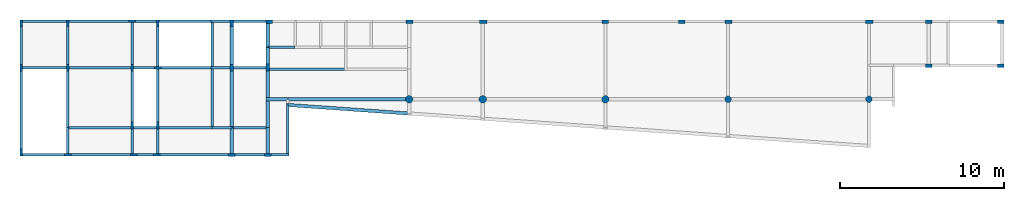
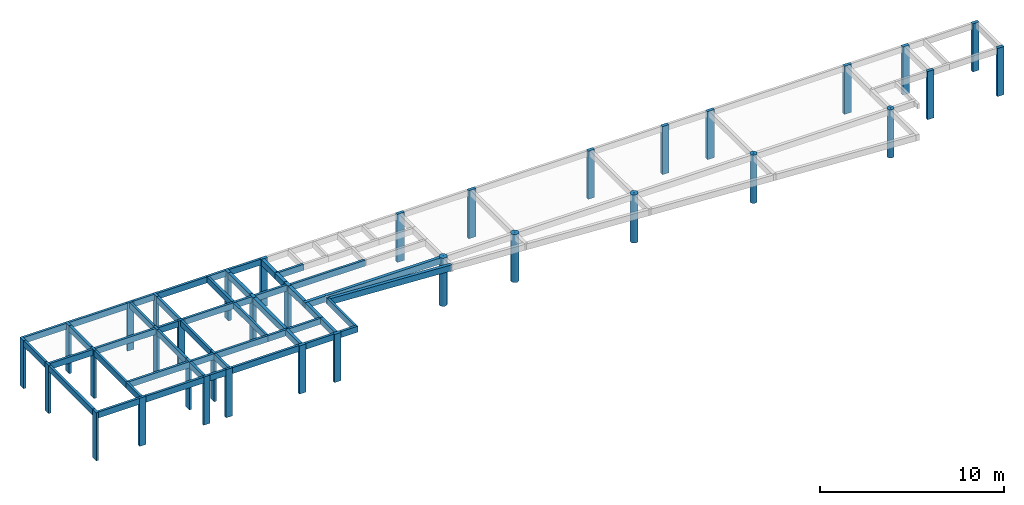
# One storey, part 1 of 3: 50 beams, 35 columns.
"""IFC2X3 building model written with IfcOpenShell, lengths in centimetres."""

from ifc_helpers import new_model, si_unit, derived_unit, frame, origin, origin_with_axes, origin_2d_with_axis, place, context, project, spatial, rectangle, hollow_circle, extrude, clip, halfspace, material, element, save


model = new_model("IFC2X3")

# Units and contexts
model_context = context("Model", 3, precision=1e-05, world=origin_with_axes(), identifier="Body")
ifc_project = project(units=[si_unit("LENGTHUNIT", "METRE", prefix="CENTI"), si_unit("VOLUMEUNIT", "CUBIC_METRE"), si_unit("AREAUNIT", "SQUARE_METRE"), si_unit("POWERUNIT", "WATT"), si_unit("LUMINOUSFLUXUNIT", "LUMEN"), si_unit("ELECTRICCURRENTUNIT", "AMPERE"), si_unit("PRESSUREUNIT", "PASCAL", prefix="KILO"), si_unit("MASSUNIT", "GRAM", prefix="KILO"), si_unit("PLANEANGLEUNIT", "RADIAN"), derived_unit("VOLUMETRICFLOWRATEUNIT", [(si_unit("LENGTHUNIT", "METRE"), 3), (si_unit("TIMEUNIT", "SECOND"), -1)])], contexts=[model_context])

# Site, building, storey
site_placement = place(None, origin_with_axes())
site = spatial("IfcSite", under=ifc_project, at=site_placement)
building_placement = place(site_placement, origin())
building = spatial("IfcBuilding", under=site, at=building_placement)
placement_1 = place(building_placement, origin_with_axes())
placement_2 = place(placement_1, frame((0.0, 0.0, 80.0), z_axis=(0.0, 0.0, 1.0), x_axis=(1.0, 0.0, 0.0)))
storey_placement = place(placement_2, frame((0.0, 0.0, 320.0), z_axis=(0.0, 0.0, 1.0), x_axis=(1.0, 0.0, 0.0)))
storey = spatial("IfcBuildingStorey", under=building, at=storey_placement, Name="03. Pavimento Superior", CompositionType="ELEMENT", Elevation=400.0)

# Columns
ifc_material = material(Name="Concreto")
column_1_placement = place(storey_placement, frame((-1732.96, -294.11, 0.0), z_axis=(0.0, 0.0, 1.0), x_axis=(1.0, 0.0, 0.0)))
element("IfcColumn", 1, at=column_1_placement, inside=storey, material=ifc_material, Name="P1", context=model_context, shape_type="SolidModel", body=[
    extrude(rectangle(XDim=15.0, YDim=40.0, at=origin_2d_with_axis()), origin_with_axes(), (0.0, 0.0, -1.0), 320.0),
])
for number, where, z_axis, x_axis, name in (
    (2, (1838.54, -284.11, 0.0), (0.0, 0.0, 1.0), (1.0, 0.0, 0.0), "P10"),
    (3, (2305.54, -284.11, 0.0), (0.0, 0.0, 1.0), (1.0, 0.0, 0.0), "P11"),
):
    element("IfcColumn", number, at=place(storey_placement, frame(where, z_axis=z_axis, x_axis=x_axis)), inside=storey, material=ifc_material, Name=name, context=model_context, shape_type="SolidModel", body=[
        extrude(rectangle(XDim=20.0, YDim=40.0, at=origin_2d_with_axis()), frame((0.0, 0.0, 0.0), z_axis=(0.0, 0.0, 1.0), x_axis=(0.0, -1.0, 0.0)), (0.0, 0.0, -1.0), 320.0),
    ])
for number, where, z_axis, x_axis, name in (
    (4, (2591.04, -284.11, 0.0), (0.0, 0.0, 1.0), (1.0, 0.0, 0.0), "P12"),
    (5, (3452.04, -284.11, 0.0), (0.0, 0.0, 1.0), (1.0, 0.0, 0.0), "P13"),
):
    element("IfcColumn", number, at=place(storey_placement, frame(where, z_axis=z_axis, x_axis=x_axis)), inside=storey, material=ifc_material, Name=name, context=model_context, shape_type="SolidModel", body=[
        extrude(rectangle(XDim=20.0, YDim=45.0, at=origin_2d_with_axis()), frame((0.0, 0.0, 0.0), z_axis=(0.0, 0.0, 1.0), x_axis=(0.0, -1.0, 0.0)), (0.0, 0.0, -1.0), 320.0),
    ])
for number, where, z_axis, x_axis, name in (
    (6, (3816.04, -284.11, 0.0), (0.0, 0.0, 1.0), (1.0, 0.0, 0.0), "P14"),
    (7, (4255.54, -284.11, 0.0), (0.0, 0.0, 1.0), (1.0, 0.0, 0.0), "P15"),
):
    element("IfcColumn", number, at=place(storey_placement, frame(where, z_axis=z_axis, x_axis=x_axis)), inside=storey, material=ifc_material, Name=name, context=model_context, shape_type="SolidModel", body=[
        extrude(rectangle(XDim=20.0, YDim=40.0, at=origin_2d_with_axis()), frame((0.0, 0.0, 0.0), z_axis=(0.0, 0.0, 1.0), x_axis=(0.0, -1.0, 0.0)), (0.0, 0.0, -1.0), 320.0),
    ])
for number, where, z_axis, x_axis, name in (
    (8, (-1732.96, -566.61, 0.0), (0.0, 0.0, 1.0), (1.0, 0.0, 0.0), "P16"),
    (9, (-1447.96, -566.61, 0.0), (0.0, 0.0, 1.0), (1.0, 0.0, 0.0), "P17"),
):
    element("IfcColumn", number, at=place(storey_placement, frame(where, z_axis=z_axis, x_axis=x_axis)), inside=storey, material=ifc_material, Name=name, context=model_context, shape_type="SolidModel", body=[
        extrude(rectangle(XDim=15.0, YDim=40.0, at=origin_2d_with_axis()), origin_with_axes(), (0.0, 0.0, -1.0), 320.0),
    ])
column_2_placement = place(storey_placement, frame((-1052.96, -566.61, 0.0), z_axis=(0.0, 0.0, 1.0), x_axis=(1.0, 0.0, 0.0)))
element("IfcColumn", 10, at=column_2_placement, inside=storey, material=ifc_material, Name="P18", context=model_context, shape_type="SolidModel", body=[
    extrude(rectangle(XDim=15.0, YDim=40.0, at=origin_2d_with_axis()), frame((0.0, 0.0, 0.0), z_axis=(0.0, 0.0, 1.0), x_axis=(-1.0, 0.0, 0.0)), (0.0, 0.0, -1.0), 320.0),
])
column_3_placement = place(storey_placement, frame((-897.96, -566.61, 0.0), z_axis=(0.0, 0.0, 1.0), x_axis=(1.0, 0.0, 0.0)))
element("IfcColumn", 11, at=column_3_placement, inside=storey, material=ifc_material, Name="P19", context=model_context, shape_type="SolidModel", body=[
    extrude(rectangle(XDim=15.0, YDim=40.0, at=origin_2d_with_axis()), frame((0.0, 0.0, 0.0), z_axis=(0.0, 0.0, 1.0), x_axis=(0.0, -1.0, 0.0)), (0.0, 0.0, -1.0), 320.0),
])
column_4_placement = place(storey_placement, frame((-1447.96, -294.11, 0.0), z_axis=(0.0, 0.0, 1.0), x_axis=(1.0, 0.0, 0.0)))
element("IfcColumn", 12, at=column_4_placement, inside=storey, material=ifc_material, Name="P2", context=model_context, shape_type="SolidModel", body=[
    extrude(rectangle(XDim=15.0, YDim=40.0, at=origin_2d_with_axis()), origin_with_axes(), (0.0, 0.0, -1.0), 320.0),
])
column_5_placement = place(storey_placement, frame((-445.46, -566.61, 0.0), z_axis=(0.0, 0.0, 1.0), x_axis=(1.0, 0.0, 0.0)))
element("IfcColumn", 13, at=column_5_placement, inside=storey, material=ifc_material, Name="P20", context=model_context, shape_type="SolidModel", body=[
    extrude(rectangle(XDim=20.0, YDim=40.0, at=origin_2d_with_axis()), origin_with_axes(), (0.0, 0.0, -1.0), 320.0),
])
column_6_placement = place(storey_placement, frame((-225.46, -564.11, 0.0), z_axis=(0.0, 0.0, 1.0), x_axis=(1.0, 0.0, 0.0)))
element("IfcColumn", 14, at=column_6_placement, inside=storey, material=ifc_material, Name="P21", context=model_context, shape_type="SolidModel", body=[
    extrude(rectangle(XDim=20.0, YDim=45.0, at=origin_2d_with_axis()), origin_with_axes(), (0.0, 0.0, -1.0), 320.0),
])
for number, where, z_axis, x_axis, name in (
    (15, (3816.04, -554.11, 0.0), (0.0, 0.0, 1.0), (1.0, 0.0, 0.0), "P22"),
    (16, (4255.54, -554.11, 0.0), (0.0, 0.0, 1.0), (1.0, 0.0, 0.0), "P23"),
):
    element("IfcColumn", number, at=place(storey_placement, frame(where, z_axis=z_axis, x_axis=x_axis)), inside=storey, material=ifc_material, Name=name, context=model_context, shape_type="SolidModel", body=[
        extrude(rectangle(XDim=20.0, YDim=40.0, at=origin_2d_with_axis()), frame((0.0, 0.0, 0.0), z_axis=(0.0, 0.0, 1.0), x_axis=(0.0, -1.0, 0.0)), (0.0, 0.0, -1.0), 320.0),
    ])
for number, where, z_axis, x_axis, name in (
    (17, (638.67, -758.96, 0.0), (0.0, 0.0, 1.0), (1.0, 0.0, 0.0), "P28"),
    (18, (1088.67, -758.96, 0.0), (0.0, 0.0, 1.0), (1.0, 0.0, 0.0), "P29"),
):
    element("IfcColumn", number, at=place(storey_placement, frame(where, z_axis=z_axis, x_axis=x_axis)), inside=storey, material=ifc_material, Name=name, context=model_context, shape_type="SolidModel", body=[
        extrude(hollow_circle(Radius=22.5, WallThickness=20.0, at=origin_2d_with_axis()), origin_with_axes(), (0.0, 0.0, -1.0), 320.0),
    ])
column_7_placement = place(storey_placement, frame((-1052.96, -282.08, 0.0), z_axis=(0.0, 0.0, 1.0), x_axis=(1.0, 0.0, 0.0)))
element("IfcColumn", 19, at=column_7_placement, inside=storey, material=ifc_material, Name="P3", context=model_context, shape_type="SolidModel", body=[
    extrude(rectangle(XDim=15.0, YDim=40.0, at=origin_2d_with_axis()), frame((0.0, 0.0, 0.0), z_axis=(0.0, 0.0, 1.0), x_axis=(0.0, -1.0, 0.0)), (0.0, 0.0, -1.0), 320.0),
])
column_8_placement = place(storey_placement, frame((1838.67, -758.96, 0.0), z_axis=(0.0, 0.0, 1.0), x_axis=(1.0, 0.0, 0.0)))
element("IfcColumn", 20, at=column_8_placement, inside=storey, material=ifc_material, Name="P30", context=model_context, shape_type="SolidModel", body=[
    extrude(hollow_circle(Radius=22.5, WallThickness=20.0, at=origin_2d_with_axis()), origin_with_axes(), (0.0, 0.0, -1.0), 320.0),
])
for number, where, z_axis, x_axis, name in (
    (21, (2588.67, -758.96, 0.0), (0.0, 0.0, 1.0), (1.0, 0.0, 0.0), "P31"),
    (22, (3449.67, -758.96, 0.0), (0.0, 0.0, 1.0), (1.0, 0.0, 0.0), "P32"),
):
    element("IfcColumn", number, at=place(storey_placement, frame(where, z_axis=z_axis, x_axis=x_axis)), inside=storey, material=ifc_material, Name=name, context=model_context, shape_type="SolidModel", body=[
        extrude(hollow_circle(Radius=20.0, WallThickness=17.5, at=origin_2d_with_axis()), origin_with_axes(), (0.0, 0.0, -1.0), 320.0),
    ])
column_9_placement = place(storey_placement, frame((-1052.96, -919.11, 0.0), z_axis=(0.0, 0.0, 1.0), x_axis=(1.0, 0.0, 0.0)))
element("IfcColumn", 23, at=column_9_placement, inside=storey, material=ifc_material, Name="P33", context=model_context, shape_type="SolidModel", body=[
    extrude(rectangle(XDim=15.0, YDim=40.0, at=origin_2d_with_axis()), frame((0.0, 0.0, 0.0), z_axis=(0.0, 0.0, 1.0), x_axis=(-1.0, 0.0, 0.0)), (0.0, 0.0, -1.0), 320.0),
])
for number, where, z_axis, x_axis, name in (
    (24, (-897.96, -919.11, 0.0), (0.0, 0.0, 1.0), (1.0, 0.0, 0.0), "P34"),
    (25, (-1732.96, -1084.11, 0.0), (0.0, 0.0, 1.0), (1.0, 0.0, 0.0), "P35"),
):
    element("IfcColumn", number, at=place(storey_placement, frame(where, z_axis=z_axis, x_axis=x_axis)), inside=storey, material=ifc_material, Name=name, context=model_context, shape_type="SolidModel", body=[
        extrude(rectangle(XDim=15.0, YDim=40.0, at=origin_2d_with_axis()), origin_with_axes(), (0.0, 0.0, -1.0), 320.0),
    ])
for number, where, z_axis, x_axis, name in (
    (26, (-1447.96, -1096.61, 0.0), (0.0, 0.0, 1.0), (1.0, 0.0, 0.0), "P36"),
    (27, (-1044.96, -1096.6, 0.0), (0.0, 0.0, 1.0), (1.0, 0.0, 0.0), "P37"),
    (28, (-904.46, -1096.6, 0.0), (0.0, 0.0, 1.0), (1.0, 0.0, 0.0), "P38"),
):
    element("IfcColumn", number, at=place(storey_placement, frame(where, z_axis=z_axis, x_axis=x_axis)), inside=storey, material=ifc_material, Name=name, context=model_context, shape_type="SolidModel", body=[
        extrude(rectangle(XDim=15.0, YDim=40.0, at=origin_2d_with_axis()), frame((0.0, 0.0, 0.0), z_axis=(0.0, 0.0, 1.0), x_axis=(0.0, -1.0, 0.0)), (0.0, 0.0, -1.0), 320.0),
    ])
column_10_placement = place(storey_placement, frame((-445.46, -1099.1, 0.0), z_axis=(0.0, 0.0, 1.0), x_axis=(1.0, 0.0, 0.0)))
element("IfcColumn", 29, at=column_10_placement, inside=storey, material=ifc_material, Name="P39", context=model_context, shape_type="SolidModel", body=[
    extrude(rectangle(XDim=20.0, YDim=40.0, at=origin_2d_with_axis()), frame((0.0, 0.0, 0.0), z_axis=(0.0, 0.0, 1.0), x_axis=(0.0, -1.0, 0.0)), (0.0, 0.0, -1.0), 320.0),
])
column_11_placement = place(storey_placement, frame((-897.96, -294.11, 0.0), z_axis=(0.0, 0.0, 1.0), x_axis=(1.0, 0.0, 0.0)))
element("IfcColumn", 30, at=column_11_placement, inside=storey, material=ifc_material, Name="P4", context=model_context, shape_type="SolidModel", body=[
    extrude(rectangle(XDim=15.0, YDim=40.0, at=origin_2d_with_axis()), origin_with_axes(), (0.0, 0.0, -1.0), 320.0),
])
column_12_placement = place(storey_placement, frame((-225.46, -1099.1, 0.0), z_axis=(0.0, 0.0, 1.0), x_axis=(1.0, 0.0, 0.0)))
element("IfcColumn", 31, at=column_12_placement, inside=storey, material=ifc_material, Name="P40", context=model_context, shape_type="SolidModel", body=[
    extrude(rectangle(XDim=20.0, YDim=40.0, at=origin_2d_with_axis()), frame((0.0, 0.0, 0.0), z_axis=(0.0, 0.0, 1.0), x_axis=(0.0, -1.0, 0.0)), (0.0, 0.0, -1.0), 320.0),
])
column_13_placement = place(storey_placement, frame((-445.46, -294.11, 0.0), z_axis=(0.0, 0.0, 1.0), x_axis=(1.0, 0.0, 0.0)))
element("IfcColumn", 32, at=column_13_placement, inside=storey, material=ifc_material, Name="P5", context=model_context, shape_type="SolidModel", body=[
    extrude(rectangle(XDim=20.0, YDim=40.0, at=origin_2d_with_axis()), origin_with_axes(), (0.0, 0.0, -1.0), 320.0),
])
column_14_placement = place(storey_placement, frame((-215.46, -284.11, 0.0), z_axis=(0.0, 0.0, 1.0), x_axis=(1.0, 0.0, 0.0)))
element("IfcColumn", 33, at=column_14_placement, inside=storey, material=ifc_material, Name="P6", context=model_context, shape_type="SolidModel", body=[
    extrude(rectangle(XDim=20.0, YDim=40.0, at=origin_2d_with_axis()), frame((0.0, 0.0, 0.0), z_axis=(0.0, 0.0, 1.0), x_axis=(0.0, -1.0, 0.0)), (0.0, 0.0, -1.0), 320.0),
])
for number, where, z_axis, x_axis, name in (
    (34, (641.04, -284.11, 0.0), (0.0, 0.0, 1.0), (1.0, 0.0, 0.0), "P8"),
    (35, (1091.04, -284.11, 0.0), (0.0, 0.0, 1.0), (1.0, 0.0, 0.0), "P9"),
):
    element("IfcColumn", number, at=place(storey_placement, frame(where, z_axis=z_axis, x_axis=x_axis)), inside=storey, material=ifc_material, Name=name, context=model_context, shape_type="SolidModel", body=[
        extrude(rectangle(XDim=20.0, YDim=45.0, at=origin_2d_with_axis()), frame((0.0, 0.0, 0.0), z_axis=(0.0, 0.0, 1.0), x_axis=(0.0, -1.0, 0.0)), (0.0, 0.0, -1.0), 320.0),
    ])

# Beams
beam_1_placement = place(storey_placement, frame((-1246.71, -281.61, 0.0), z_axis=(0.0, 0.0, 1.0), x_axis=(1.0, 0.0, 0.0)))
element("IfcBeam", 36, at=beam_1_placement, inside=storey, material=ifc_material, Name="V1", context=model_context, shape_type="SolidModel", body=[
    extrude(rectangle(XDim=15.0, YDim=40.0, at=origin_2d_with_axis()), frame((-193.75, 0.0, -20.0), z_axis=(1.0, 0.0, 0.0), x_axis=(0.0, -1.0, 0.0)), (0.0, 0.0, 1.0), 387.5),
])
beam_2_placement = place(storey_placement, frame((-1590.46, -281.61, 0.0), z_axis=(0.0, 0.0, 1.0), x_axis=(1.0, 0.0, 0.0)))
element("IfcBeam", 37, at=beam_2_placement, inside=storey, material=ifc_material, Name="V1", context=model_context, shape_type="SolidModel", body=[
    extrude(rectangle(XDim=15.0, YDim=40.0, at=origin_2d_with_axis()), frame((-135.0, 0.0, -20.0), z_axis=(1.0, 0.0, 0.0), x_axis=(0.0, -1.0, 0.0)), (0.0, 0.0, 1.0), 270.0),
])
beam_3_placement = place(storey_placement, frame((-979.21, -281.61, 0.0), z_axis=(0.0, 0.0, 1.0), x_axis=(1.0, 0.0, 0.0)))
element("IfcBeam", 38, at=beam_3_placement, inside=storey, material=ifc_material, Name="V1", context=model_context, shape_type="SolidModel", body=[
    extrude(rectangle(XDim=15.0, YDim=40.0, at=origin_2d_with_axis()), frame((-73.75, 0.0, -20.0), z_axis=(1.0, 0.0, 0.0), x_axis=(0.0, -1.0, 0.0)), (0.0, 0.0, 1.0), 147.5),
])
beam_4_placement = place(storey_placement, frame((-727.96, -281.61, 0.0), z_axis=(0.0, 0.0, 1.0), x_axis=(1.0, 0.0, 0.0)))
element("IfcBeam", 39, at=beam_4_placement, inside=storey, material=ifc_material, Name="V1", context=model_context, shape_type="SolidModel", body=[
    extrude(rectangle(XDim=15.0, YDim=40.0, at=origin_2d_with_axis()), frame((-162.5, 0.0, -20.0), z_axis=(1.0, 0.0, 0.0), x_axis=(0.0, -1.0, 0.0)), (0.0, 0.0, 1.0), 325.0),
])
beam_5_placement = place(storey_placement, frame((-514.21, -281.61, 0.0), z_axis=(0.0, 0.0, 1.0), x_axis=(1.0, 0.0, 0.0)))
element("IfcBeam", 40, at=beam_5_placement, inside=storey, material=ifc_material, Name="V1", context=model_context, shape_type="SolidModel", body=[
    extrude(rectangle(XDim=15.0, YDim=40.0, at=origin_2d_with_axis()), frame((-58.75, 0.0, -20.0), z_axis=(1.0, 0.0, 0.0), x_axis=(0.0, -1.0, 0.0)), (0.0, 0.0, 1.0), 117.5),
])
beam_6_placement = place(storey_placement, frame((-335.46, -281.61, 0.0), z_axis=(0.0, 0.0, 1.0), x_axis=(1.0, 0.0, 0.0)))
element("IfcBeam", 41, at=beam_6_placement, inside=storey, material=ifc_material, Name="V1", context=model_context, shape_type="SolidModel", body=[
    extrude(rectangle(XDim=15.0, YDim=40.0, at=origin_2d_with_axis()), frame((-100.0, 0.0, -20.0), z_axis=(1.0, 0.0, 0.0), x_axis=(0.0, -1.0, 0.0)), (0.0, 0.0, 1.0), 200.0),
])
beam_7_placement = place(storey_placement, frame((264.69963178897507, -819.4627326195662, 0.0), z_axis=(0.0, 0.0, 1.0), x_axis=(1.0, 0.0, 0.0)))
element("IfcBeam", 42, at=beam_7_placement, inside=storey, material=ifc_material, Name="V10", context=model_context, shape_type="Clipping", body=[
    clip(extrude(rectangle(XDim=20.0, YDim=40.0, at=origin_2d_with_axis()), frame((-375.3791394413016, 26.45726738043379, -20.0), z_axis=(0.997516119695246, -0.070438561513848, 0.0), x_axis=(-0.070438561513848, -0.997516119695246, 0.0)), (0.0, 0.0, 1.0), 751.2154368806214), halfspace(frame((-374.67475382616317, 36.43242857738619, 0.0), z_axis=(0.999795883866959, 0.02020372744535, 0.0), x_axis=(0.0, 0.0, -0.09057772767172)), True)),
])
beam_8_placement = place(storey_placement, frame((-975.46, -931.61, 0.0), z_axis=(0.0, 0.0, 1.0), x_axis=(1.0, 0.0, 0.0)))
element("IfcBeam", 43, at=beam_8_placement, inside=storey, material=ifc_material, Name="V16", context=model_context, shape_type="SolidModel", body=[
    extrude(rectangle(XDim=15.0, YDim=40.0, at=origin_2d_with_axis()), frame((-70.0, 0.0, -20.0), z_axis=(1.0, 0.0, 0.0), x_axis=(0.0, -1.0, 0.0)), (0.0, 0.0, 1.0), 140.0),
])
beam_9_placement = place(storey_placement, frame((-1254.21, -931.61, 0.0), z_axis=(0.0, 0.0, 1.0), x_axis=(1.0, 0.0, 0.0)))
element("IfcBeam", 44, at=beam_9_placement, inside=storey, material=ifc_material, Name="V16", context=model_context, shape_type="SolidModel", body=[
    extrude(rectangle(XDim=15.0, YDim=40.0, at=origin_2d_with_axis()), frame((-193.75, 0.0, -20.0), z_axis=(1.0, 0.0, 0.0), x_axis=(0.0, -1.0, 0.0)), (0.0, 0.0, 1.0), 387.5),
])
beam_10_placement = place(storey_placement, frame((-505.46, -931.61, 0.0), z_axis=(0.0, 0.0, 1.0), x_axis=(1.0, 0.0, 0.0)))
element("IfcBeam", 45, at=beam_10_placement, inside=storey, material=ifc_material, Name="V17", context=model_context, shape_type="SolidModel", body=[
    extrude(rectangle(XDim=15.0, YDim=40.0, at=origin_2d_with_axis()), frame((-60.0, 0.0, -20.0), z_axis=(1.0, 0.0, 0.0), x_axis=(0.0, -1.0, 0.0)), (0.0, 0.0, 1.0), 120.0),
])
beam_11_placement = place(storey_placement, frame((-727.96, -931.61, 0.0), z_axis=(0.0, 0.0, 1.0), x_axis=(1.0, 0.0, 0.0)))
element("IfcBeam", 46, at=beam_11_placement, inside=storey, material=ifc_material, Name="V17", context=model_context, shape_type="SolidModel", body=[
    extrude(rectangle(XDim=15.0, YDim=40.0, at=origin_2d_with_axis()), frame((-162.5, 0.0, -20.0), z_axis=(1.0, 0.0, 0.0), x_axis=(0.0, -1.0, 0.0)), (0.0, 0.0, 1.0), 325.0),
])
beam_12_placement = place(storey_placement, frame((-335.46, -931.61, 0.0), z_axis=(0.0, 0.0, 1.0), x_axis=(1.0, 0.0, 0.0)))
element("IfcBeam", 47, at=beam_12_placement, inside=storey, material=ifc_material, Name="V17", context=model_context, shape_type="SolidModel", body=[
    extrude(rectangle(XDim=15.0, YDim=40.0, at=origin_2d_with_axis()), frame((-110.0, 0.0, -20.0), z_axis=(1.0, 0.0, 0.0), x_axis=(0.0, -1.0, 0.0)), (0.0, 0.0, 1.0), 220.0),
])
beam_13_placement = place(storey_placement, frame((-1596.71, -1096.6, 0.0), z_axis=(0.0, 0.0, 1.0), x_axis=(1.0, 0.0, 0.0)))
element("IfcBeam", 48, at=beam_13_placement, inside=storey, material=ifc_material, Name="V18", context=model_context, shape_type="SolidModel", body=[
    extrude(rectangle(XDim=15.0, YDim=40.0, at=origin_2d_with_axis()), frame((-128.75, 0.0, -20.0), z_axis=(1.0, 0.0, 0.0), x_axis=(0.0, -1.0, 0.0)), (0.0, 0.0, 1.0), 257.5),
])
beam_14_placement = place(storey_placement, frame((-1246.46, -1096.6, 0.0), z_axis=(0.0, 0.0, 1.0), x_axis=(1.0, 0.0, 0.0)))
element("IfcBeam", 49, at=beam_14_placement, inside=storey, material=ifc_material, Name="V18", context=model_context, shape_type="SolidModel", body=[
    extrude(rectangle(XDim=15.0, YDim=40.0, at=origin_2d_with_axis()), frame((-181.5, 0.0, -20.0), z_axis=(1.0, 0.0, 0.0), x_axis=(0.0, -1.0, 0.0)), (0.0, 0.0, 1.0), 363.0),
])
beam_15_placement = place(storey_placement, frame((-974.71, -1096.6, 0.0), z_axis=(0.0, 0.0, 1.0), x_axis=(1.0, 0.0, 0.0)))
element("IfcBeam", 50, at=beam_15_placement, inside=storey, material=ifc_material, Name="V18", context=model_context, shape_type="SolidModel", body=[
    extrude(rectangle(XDim=15.0, YDim=40.0, at=origin_2d_with_axis()), frame((-50.25, 0.0, -20.0), z_axis=(1.0, 0.0, 0.0), x_axis=(0.0, -1.0, 0.0)), (0.0, 0.0, 1.0), 100.5),
])
beam_16_placement = place(storey_placement, frame((-335.46, -1096.6, 0.0), z_axis=(0.0, 0.0, 1.0), x_axis=(1.0, 0.0, 0.0)))
element("IfcBeam", 51, at=beam_16_placement, inside=storey, material=ifc_material, Name="V18", context=model_context, shape_type="SolidModel", body=[
    extrude(rectangle(XDim=15.0, YDim=40.0, at=origin_2d_with_axis()), frame((-90.0, 0.0, -20.0), z_axis=(1.0, 0.0, 0.0), x_axis=(0.0, -1.0, 0.0)), (0.0, 0.0, 1.0), 180.0),
])
beam_17_placement = place(storey_placement, frame((-674.96, -1096.6, 0.0), z_axis=(0.0, 0.0, 1.0), x_axis=(1.0, 0.0, 0.0)))
element("IfcBeam", 52, at=beam_17_placement, inside=storey, material=ifc_material, Name="V18", context=model_context, shape_type="SolidModel", body=[
    extrude(rectangle(XDim=15.0, YDim=40.0, at=origin_2d_with_axis()), frame((-209.5, 0.0, -20.0), z_axis=(1.0, 0.0, 0.0), x_axis=(0.0, -1.0, 0.0)), (0.0, 0.0, 1.0), 419.0),
])
beam_18_placement = place(storey_placement, frame((-150.45132662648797, -1096.6, 0.0), z_axis=(0.0, 0.0, 1.0), x_axis=(1.0, 0.0, 0.0)))
element("IfcBeam", 53, at=beam_18_placement, inside=storey, material=ifc_material, Name="V18", context=model_context, shape_type="Clipping", body=[
    clip(extrude(rectangle(XDim=15.0, YDim=40.0, at=origin_2d_with_axis()), frame((-55.00867337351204, 0.0, -20.0), z_axis=(1.0, 0.0, 0.0), x_axis=(0.0, -1.0, 0.0)), (0.0, 0.0, 1.0), 110.01734674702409), halfspace(frame((55.00867337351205, 7.5, -40.0), z_axis=(-1.0, 0.00231022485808, 0.0), x_axis=(0.0, 0.0, -0.00231022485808)), True)),
])
beam_19_placement = place(storey_placement, frame((-1732.96, -825.36, 0.0), z_axis=(0.0, 0.0, 1.0), x_axis=(1.0, 0.0, 0.0)))
element("IfcBeam", 54, at=beam_19_placement, inside=storey, material=ifc_material, Name="V19", context=model_context, shape_type="SolidModel", body=[
    extrude(rectangle(XDim=15.0, YDim=40.0, at=origin_2d_with_axis()), frame((0.0, -238.75, -20.0), z_axis=(0.0, 1.0, 0.0), x_axis=(-1.0, 0.0, 0.0)), (0.0, 0.0, 1.0), 477.5),
])
for number, where, z_axis, x_axis, name in (
    (55, (-1732.96, -430.36, 0.0), (0.0, 0.0, 1.0), (1.0, 0.0, 0.0), "V19"),
    (56, (-1447.96, -430.36, 0.0), (0.0, 0.0, 1.0), (1.0, 0.0, 0.0), "V20"),
):
    element("IfcBeam", number, at=place(storey_placement, frame(where, z_axis=z_axis, x_axis=x_axis)), inside=storey, material=ifc_material, Name=name, context=model_context, shape_type="SolidModel", body=[
        extrude(rectangle(XDim=15.0, YDim=40.0, at=origin_2d_with_axis()), frame((0.0, -116.25, -20.0), z_axis=(0.0, 1.0, 0.0), x_axis=(-1.0, 0.0, 0.0)), (0.0, 0.0, 1.0), 232.5),
    ])
beam_20_placement = place(storey_placement, frame((-1447.96, -759.11, 0.0), z_axis=(0.0, 0.0, 1.0), x_axis=(1.0, 0.0, 0.0)))
element("IfcBeam", 57, at=beam_20_placement, inside=storey, material=ifc_material, Name="V20", context=model_context, shape_type="SolidModel", body=[
    extrude(rectangle(XDim=15.0, YDim=40.0, at=origin_2d_with_axis()), frame((0.0, -172.5, -20.0), z_axis=(0.0, 1.0, 0.0), x_axis=(-1.0, 0.0, 0.0)), (0.0, 0.0, 1.0), 345.0),
])
beam_21_placement = place(storey_placement, frame((-1447.96, -1010.36, 0.0), z_axis=(0.0, 0.0, 1.0), x_axis=(1.0, 0.0, 0.0)))
element("IfcBeam", 58, at=beam_21_placement, inside=storey, material=ifc_material, Name="V20", context=model_context, shape_type="SolidModel", body=[
    extrude(rectangle(XDim=15.0, YDim=40.0, at=origin_2d_with_axis()), frame((0.0, -78.75, -20.0), z_axis=(0.0, 1.0, 0.0), x_axis=(-1.0, 0.0, 0.0)), (0.0, 0.0, 1.0), 157.5),
])
beam_22_placement = place(storey_placement, frame((-1052.96, -742.86, 0.0), z_axis=(0.0, 0.0, 1.0), x_axis=(1.0, 0.0, 0.0)))
element("IfcBeam", 59, at=beam_22_placement, inside=storey, material=ifc_material, Name="V21", context=model_context, shape_type="SolidModel", body=[
    extrude(rectangle(XDim=15.0, YDim=40.0, at=origin_2d_with_axis()), frame((0.0, -156.25, -20.0), z_axis=(0.0, 1.0, 0.0), x_axis=(-1.0, 0.0, 0.0)), (0.0, 0.0, 1.0), 312.5),
])
beam_23_placement = place(storey_placement, frame((-1052.96, -418.095, 0.0), z_axis=(0.0, 0.0, 1.0), x_axis=(1.0, 0.0, 0.0)))
element("IfcBeam", 60, at=beam_23_placement, inside=storey, material=ifc_material, Name="V21", context=model_context, shape_type="SolidModel", body=[
    extrude(rectangle(XDim=15.0, YDim=40.0, at=origin_2d_with_axis()), frame((0.0, -128.515, -20.0), z_axis=(0.0, 1.0, 0.0), x_axis=(-1.0, 0.0, 0.0)), (0.0, 0.0, 1.0), 257.03),
])
for number, where, z_axis, x_axis, name in (
    (61, (-1052.96, -1014.105, 0.0), (0.0, 0.0, 1.0), (1.0, 0.0, 0.0), "V21"),
    (62, (-897.96, -1014.105, 0.0), (0.0, 0.0, 1.0), (1.0, 0.0, 0.0), "V22"),
):
    element("IfcBeam", number, at=place(storey_placement, frame(where, z_axis=z_axis, x_axis=x_axis)), inside=storey, material=ifc_material, Name=name, context=model_context, shape_type="SolidModel", body=[
        extrude(rectangle(XDim=15.0, YDim=40.0, at=origin_2d_with_axis()), frame((0.0, -74.995, -20.0), z_axis=(0.0, 1.0, 0.0), x_axis=(-1.0, 0.0, 0.0)), (0.0, 0.0, 1.0), 149.99),
    ])
beam_24_placement = place(storey_placement, frame((-897.96, -736.61, 0.0), z_axis=(0.0, 0.0, 1.0), x_axis=(1.0, 0.0, 0.0)))
element("IfcBeam", 63, at=beam_24_placement, inside=storey, material=ifc_material, Name="V22", context=model_context, shape_type="SolidModel", body=[
    extrude(rectangle(XDim=15.0, YDim=40.0, at=origin_2d_with_axis()), frame((0.0, -162.5, -20.0), z_axis=(0.0, 1.0, 0.0), x_axis=(-1.0, 0.0, 0.0)), (0.0, 0.0, 1.0), 325.0),
])
beam_25_placement = place(storey_placement, frame((-897.96, -436.61, 0.0), z_axis=(0.0, 0.0, 1.0), x_axis=(1.0, 0.0, 0.0)))
element("IfcBeam", 64, at=beam_25_placement, inside=storey, material=ifc_material, Name="V22", context=model_context, shape_type="SolidModel", body=[
    extrude(rectangle(XDim=15.0, YDim=40.0, at=origin_2d_with_axis()), frame((0.0, -122.5, -20.0), z_axis=(0.0, 1.0, 0.0), x_axis=(-1.0, 0.0, 0.0)), (0.0, 0.0, 1.0), 245.0),
])
beam_26_placement = place(storey_placement, frame((-565.46, -424.11, 0.0), z_axis=(0.0, 0.0, 1.0), x_axis=(1.0, 0.0, 0.0)))
element("IfcBeam", 65, at=beam_26_placement, inside=storey, material=ifc_material, Name="V23", context=model_context, shape_type="SolidModel", body=[
    extrude(rectangle(XDim=15.0, YDim=40.0, at=origin_2d_with_axis()), frame((0.0, -135.0, -20.0), z_axis=(0.0, 1.0, 0.0), x_axis=(-1.0, 0.0, 0.0)), (0.0, 0.0, 1.0), 270.0),
])
beam_27_placement = place(storey_placement, frame((-565.46, -749.11, 0.0), z_axis=(0.0, 0.0, 1.0), x_axis=(1.0, 0.0, 0.0)))
element("IfcBeam", 66, at=beam_27_placement, inside=storey, material=ifc_material, Name="V23", context=model_context, shape_type="SolidModel", body=[
    extrude(rectangle(XDim=15.0, YDim=40.0, at=origin_2d_with_axis()), frame((0.0, -182.5, -20.0), z_axis=(0.0, 1.0, 0.0), x_axis=(1.0, 0.0, 0.0)), (0.0, 0.0, 1.0), 365.0),
])
beam_28_placement = place(storey_placement, frame((-445.46, -759.11, 0.0), z_axis=(0.0, 0.0, 1.0), x_axis=(1.0, 0.0, 0.0)))
element("IfcBeam", 67, at=beam_28_placement, inside=storey, material=ifc_material, Name="V24", context=model_context, shape_type="SolidModel", body=[
    extrude(rectangle(XDim=20.0, YDim=40.0, at=origin_2d_with_axis()), frame((0.0, -172.5, -20.0), z_axis=(0.0, 1.0, 0.0), x_axis=(1.0, 0.0, 0.0)), (0.0, 0.0, 1.0), 345.0),
])
beam_29_placement = place(storey_placement, frame((-445.46, -1010.355, 0.0), z_axis=(0.0, 0.0, 1.0), x_axis=(1.0, 0.0, 0.0)))
element("IfcBeam", 68, at=beam_29_placement, inside=storey, material=ifc_material, Name="V24", context=model_context, shape_type="SolidModel", body=[
    extrude(rectangle(XDim=20.0, YDim=40.0, at=origin_2d_with_axis()), frame((0.0, -78.745, -20.0), z_axis=(0.0, 1.0, 0.0), x_axis=(1.0, 0.0, 0.0)), (0.0, 0.0, 1.0), 157.49),
])
beam_30_placement = place(storey_placement, frame((-445.46, -430.36, 0.0), z_axis=(0.0, 0.0, 1.0), x_axis=(1.0, 0.0, 0.0)))
element("IfcBeam", 69, at=beam_30_placement, inside=storey, material=ifc_material, Name="V24", context=model_context, shape_type="SolidModel", body=[
    extrude(rectangle(XDim=20.0, YDim=40.0, at=origin_2d_with_axis()), frame((0.0, -116.25, -20.0), z_axis=(0.0, 1.0, 0.0), x_axis=(-1.0, 0.0, 0.0)), (0.0, 0.0, 1.0), 232.5),
])
beam_31_placement = place(storey_placement, frame((-225.46, -672.785, 0.0), z_axis=(0.0, 0.0, 1.0), x_axis=(1.0, 0.0, 0.0)))
element("IfcBeam", 70, at=beam_31_placement, inside=storey, material=ifc_material, Name="V25", context=model_context, shape_type="SolidModel", body=[
    extrude(rectangle(XDim=20.0, YDim=40.0, at=origin_2d_with_axis()), frame((0.0, -86.175, -20.0), z_axis=(0.0, 1.0, 0.0), x_axis=(1.0, 0.0, 0.0)), (0.0, 0.0, 1.0), 172.35),
])
beam_32_placement = place(storey_placement, frame((-225.46, -1010.355, 0.0), z_axis=(0.0, 0.0, 1.0), x_axis=(1.0, 0.0, 0.0)))
element("IfcBeam", 71, at=beam_32_placement, inside=storey, material=ifc_material, Name="V25", context=model_context, shape_type="SolidModel", body=[
    extrude(rectangle(XDim=20.0, YDim=40.0, at=origin_2d_with_axis()), frame((0.0, -78.745, -20.0), z_axis=(0.0, 1.0, 0.0), x_axis=(1.0, 0.0, 0.0)), (0.0, 0.0, 1.0), 157.49),
])
beam_33_placement = place(storey_placement, frame((-225.46, -850.285, 0.0), z_axis=(0.0, 0.0, 1.0), x_axis=(1.0, 0.0, 0.0)))
element("IfcBeam", 72, at=beam_33_placement, inside=storey, material=ifc_material, Name="V25", context=model_context, shape_type="SolidModel", body=[
    extrude(rectangle(XDim=20.0, YDim=40.0, at=origin_2d_with_axis()), frame((0.0, -81.325, -20.0), z_axis=(0.0, 1.0, 0.0), x_axis=(1.0, 0.0, 0.0)), (0.0, 0.0, 1.0), 162.65),
])
beam_34_placement = place(storey_placement, frame((-225.46, -491.61, 0.0), z_axis=(0.0, 0.0, 1.0), x_axis=(1.0, 0.0, 0.0)))
element("IfcBeam", 73, at=beam_34_placement, inside=storey, material=ifc_material, Name="V26", context=model_context, shape_type="SolidModel", body=[
    extrude(rectangle(XDim=20.0, YDim=40.0, at=origin_2d_with_axis()), frame((0.0, -50.0, -20.0), z_axis=(0.0, 1.0, 0.0), x_axis=(1.0, 0.0, 0.0)), (0.0, 0.0, 1.0), 100.0),
])
beam_35_placement = place(storey_placement, frame((-225.46, -367.86, 0.0), z_axis=(0.0, 0.0, 1.0), x_axis=(1.0, 0.0, 0.0)))
element("IfcBeam", 74, at=beam_35_placement, inside=storey, material=ifc_material, Name="V26", context=model_context, shape_type="SolidModel", body=[
    extrude(rectangle(XDim=20.0, YDim=40.0, at=origin_2d_with_axis()), frame((0.0, -73.75, -20.0), z_axis=(0.0, 1.0, 0.0), x_axis=(1.0, 0.0, 0.0)), (0.0, 0.0, 1.0), 147.5),
])
beam_36_placement = place(storey_placement, frame((-102.60135664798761, -941.3413366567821, 0.0), z_axis=(0.0, 0.0, 1.0), x_axis=(1.0, 0.0, 0.0)))
element("IfcBeam", 75, at=beam_36_placement, inside=storey, material=ifc_material, Name="V27", context=model_context, shape_type="Clipping", body=[
    clip(extrude(rectangle(XDim=15.0, YDim=40.0, at=origin_2d_with_axis()), frame((-0.34135664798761, -147.77599002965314, -20.0), z_axis=(0.002310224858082, 1.0, 0.0), x_axis=(1.0, -0.002310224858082, 0.0)), (0.0, 0.0, 1.0), 295.518115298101), halfspace(frame((-7.841336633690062, -147.75866334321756, 0.0), z_axis=(0.0, 1.0, 0.0), x_axis=(0.0, 0.0, -0.002310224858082)), True)),
])
beam_37_placement = place(storey_placement, frame((-141.71, -441.61, 0.0), z_axis=(0.0, 0.0, 1.0), x_axis=(1.0, 0.0, 0.0)))
element("IfcBeam", 76, at=beam_37_placement, inside=storey, material=ifc_material, Name="V4", context=model_context, shape_type="SolidModel", body=[
    extrude(rectangle(XDim=15.0, YDim=40.0, at=origin_2d_with_axis()), frame((-83.75, 0.0, -20.0), z_axis=(1.0, 0.0, 0.0), x_axis=(0.0, -1.0, 0.0)), (0.0, 0.0, 1.0), 167.5),
])
beam_38_placement = place(storey_placement, frame((-335.46, -566.61, 0.0), z_axis=(0.0, 0.0, 1.0), x_axis=(1.0, 0.0, 0.0)))
element("IfcBeam", 77, at=beam_38_placement, inside=storey, material=ifc_material, Name="V5", context=model_context, shape_type="SolidModel", body=[
    extrude(rectangle(XDim=15.0, YDim=40.0, at=origin_2d_with_axis()), frame((-100.0, 0.0, -20.0), z_axis=(1.0, 0.0, 0.0), x_axis=(0.0, -1.0, 0.0)), (0.0, 0.0, 1.0), 200.0),
])
beam_39_placement = place(storey_placement, frame((-1590.46, -566.61, 0.0), z_axis=(0.0, 0.0, 1.0), x_axis=(1.0, 0.0, 0.0)))
element("IfcBeam", 78, at=beam_39_placement, inside=storey, material=ifc_material, Name="V5", context=model_context, shape_type="SolidModel", body=[
    extrude(rectangle(XDim=15.0, YDim=40.0, at=origin_2d_with_axis()), frame((-135.0, 0.0, -20.0), z_axis=(1.0, 0.0, 0.0), x_axis=(0.0, -1.0, 0.0)), (0.0, 0.0, 1.0), 270.0),
])
beam_40_placement = place(storey_placement, frame((-514.21, -566.61, 0.0), z_axis=(0.0, 0.0, 1.0), x_axis=(1.0, 0.0, 0.0)))
element("IfcBeam", 79, at=beam_40_placement, inside=storey, material=ifc_material, Name="V5", context=model_context, shape_type="SolidModel", body=[
    extrude(rectangle(XDim=15.0, YDim=40.0, at=origin_2d_with_axis()), frame((-58.75, 0.0, -20.0), z_axis=(1.0, 0.0, 0.0), x_axis=(0.0, -1.0, 0.0)), (0.0, 0.0, 1.0), 117.5),
])
beam_41_placement = place(storey_placement, frame((-721.71, -566.61, 0.0), z_axis=(0.0, 0.0, 1.0), x_axis=(1.0, 0.0, 0.0)))
element("IfcBeam", 80, at=beam_41_placement, inside=storey, material=ifc_material, Name="V5", context=model_context, shape_type="SolidModel", body=[
    extrude(rectangle(XDim=15.0, YDim=40.0, at=origin_2d_with_axis()), frame((-156.25, 0.0, -20.0), z_axis=(1.0, 0.0, 0.0), x_axis=(0.0, -1.0, 0.0)), (0.0, 0.0, 1.0), 312.5),
])
beam_42_placement = place(storey_placement, frame((-1250.46, -566.61, 0.0), z_axis=(0.0, 0.0, 1.0), x_axis=(1.0, 0.0, 0.0)))
element("IfcBeam", 81, at=beam_42_placement, inside=storey, material=ifc_material, Name="V5", context=model_context, shape_type="SolidModel", body=[
    extrude(rectangle(XDim=15.0, YDim=40.0, at=origin_2d_with_axis()), frame((-190.0, 0.0, -20.0), z_axis=(1.0, 0.0, 0.0), x_axis=(0.0, -1.0, 0.0)), (0.0, 0.0, 1.0), 380.0),
])
beam_43_placement = place(storey_placement, frame((-981.71, -566.61, 0.0), z_axis=(0.0, 0.0, 1.0), x_axis=(1.0, 0.0, 0.0)))
element("IfcBeam", 82, at=beam_43_placement, inside=storey, material=ifc_material, Name="V5", context=model_context, shape_type="SolidModel", body=[
    extrude(rectangle(XDim=15.0, YDim=40.0, at=origin_2d_with_axis()), frame((-63.75, 0.0, -20.0), z_axis=(1.0, 0.0, 0.0), x_axis=(0.0, -1.0, 0.0)), (0.0, 0.0, 1.0), 127.5),
])
beam_44_placement = place(storey_placement, frame((18.29, -574.11, 0.0), z_axis=(0.0, 0.0, 1.0), x_axis=(1.0, 0.0, 0.0)))
element("IfcBeam", 83, at=beam_44_placement, inside=storey, material=ifc_material, Name="V6", context=model_context, shape_type="SolidModel", body=[
    extrude(rectangle(XDim=15.0, YDim=40.0, at=origin_2d_with_axis()), frame((-233.75, 0.0, -20.0), z_axis=(1.0, 0.0, 0.0), x_axis=(0.0, -1.0, 0.0)), (0.0, 0.0, 1.0), 467.5),
])
beam_45_placement = place(storey_placement, frame((-169.21, -758.96, 0.0), z_axis=(0.0, 0.0, 1.0), x_axis=(1.0, 0.0, 0.0)))
element("IfcBeam", 84, at=beam_45_placement, inside=storey, material=ifc_material, Name="V9", context=model_context, shape_type="SolidModel", body=[
    extrude(rectangle(XDim=20.0, YDim=40.0, at=origin_2d_with_axis()), frame((-66.25, 0.0, -20.0), z_axis=(1.0, 0.0, 0.0), x_axis=(0.0, -1.0, 0.0)), (0.0, 0.0, 1.0), 132.5),
])
beam_46_placement = place(storey_placement, frame((257.77717781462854, -758.96, 0.0), z_axis=(0.0, 0.0, 1.0), x_axis=(1.0, 0.0, 0.0)))
element("IfcBeam", 85, at=beam_46_placement, inside=storey, material=ifc_material, Name="V9", context=model_context, shape_type="SolidModel", body=[
    extrude(rectangle(XDim=20.0, YDim=40.0, at=origin_2d_with_axis()), frame((-360.7371778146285, 0.0, -20.0), z_axis=(1.0, 0.0, 0.0), x_axis=(0.0, -1.0, 0.0)), (0.0, 0.0, 1.0), 721.4743556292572),
])

save(model, "model.ifc")
